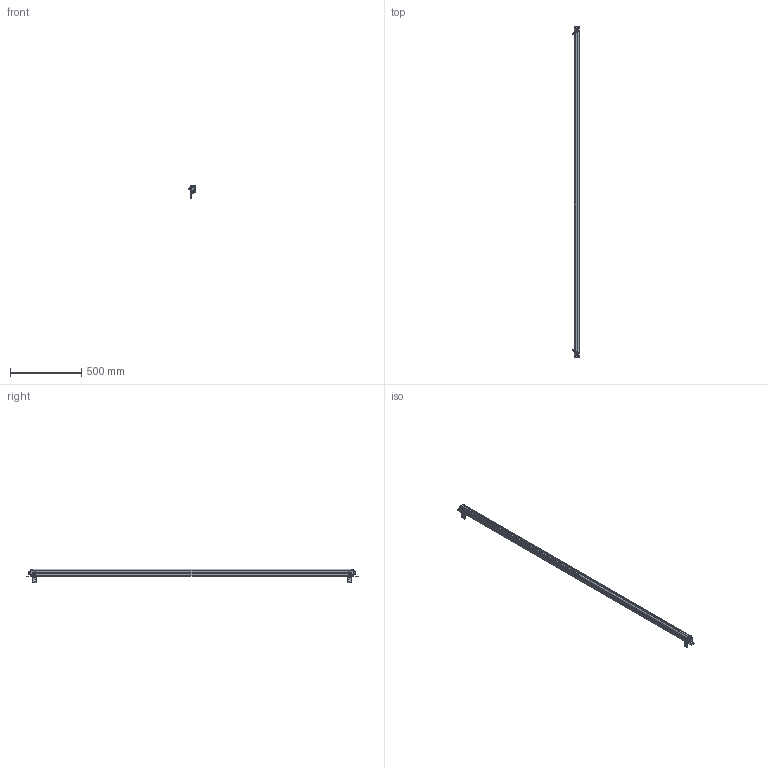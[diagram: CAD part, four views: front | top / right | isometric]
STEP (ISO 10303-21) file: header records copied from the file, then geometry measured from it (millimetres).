
FILE_DESCRIPTION((''),'2;1');
FILE_NAME('ESN--000_ASM','2021-08-11T16:44:08',('18720616900'),(''),'CREO PARAMETRIC BY PTC INC, 2019010','CREO PARAMETRIC BY PTC INC, 2019010','');
FILE_SCHEMA(('CONFIG_CONTROL_DESIGN'));
Products named in the file (22): 00; 000; _0002; _0003; _0004; 5000; 5--0001; ESN_50001_ASM; ST-3-120001; L10001; M6-8--0001; M6-1--00; M6-1-00; M6-80001_ASM; L1--0001_ASM; H1--000; H1--0003_ASM; H1--0001_ASM; ESN--000_ASM
Assembly tree (35 placements, depth 4):
  ESN--000_ASM
    00
    000
    _0002
    _0003
    _0004
    000
    ESN_50001_ASM
      5000
      5--0001  x5
    ST-3-120001  x8
    L1--0001_ASM  x2
      L10001
      M6-80001_ASM
        M6-8--0001
        M6-1--00
        M6-1-00
        00
    H1--0003_ASM
      H1--000
      M6-80001_ASM
        M6-8--0001
        M6-1--00
        M6-1-00
        00
    H1--0001_ASM
      H1--000
      M6-80001_ASM
        M6-8--0001
        M6-1--00
        M6-1-00
        00
Bounding box: 46.5 x 2327 x 94.95 mm (x, y, z)
Volume: 3376573.2 mm3; surface area: 667392.8 mm2
Topology: 40 solids, 40 shells, 1785 faces, 4708 edges, 3012 vertices
Faces by surface type: plane 583, cylinder 416, bspline 362, cone 291, torus 107, sphere 26
Entity records: 48222 total; most frequent: CARTESIAN_POINT 24957, ORIENTED_EDGE 5136, DIRECTION 4189, EDGE_CURVE 2568, VERTEX_POINT 1669, AXIS2_PLACEMENT_3D 1488, VECTOR 1213, LINE 1213
